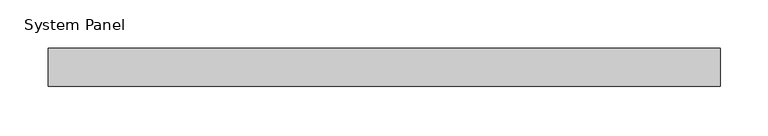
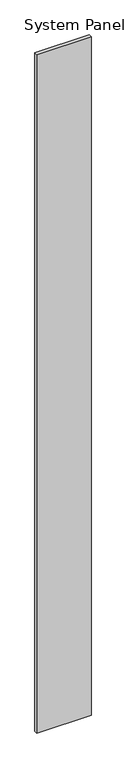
"""IFC4 building model written with IfcOpenShell, lengths in millimetres: plate geometry, System Panel : MetecnoSpan_40mm_Vertical_Plain_Surfmist."""

from ifc_helpers import new_model, si_unit, origin, origin_with_axes, place, context, project, spatial, polyline, outline, extrude, source, transform, mapped, element, save


def system_panel_a265e2d0(model_context):
    return source(origin(), model_context, "Body", "SweptSolid", [
        extrude(outline(polyline([(350.0, -40.0), (-350.0, -40.0), (-350.0, 0.0), (350.0, 0.0), (350.0, -40.0)])), origin_with_axes(), (0.0, 0.0, 1.0), 9240.3821682),
    ])


if __name__ == "__main__":
    model = new_model("IFC4")
    model_context = context("Model", 3, world=origin())
    ifc_project = project(units=[si_unit("LENGTHUNIT", "METRE", prefix="MILLI")], contexts=[model_context])
    site = spatial("IfcSite", under=ifc_project)
    building = spatial("IfcBuilding", under=site)
    placement = place(None, origin())
    system_panel_shape = system_panel_a265e2d0(model_context)
    element("IfcPlate", 1, ObjectType="System Panel : MetecnoSpan_40mm_Vertical_Plain_Surfmist", at=placement, inside=building, context=model_context, shape_type="MappedRepresentation", body=[
        mapped(system_panel_shape, transform((0.0, 0.0, 0.0), x_axis=(1.0, 0.0, 0.0), y_axis=(0.0, 1.0, 0.0), z_axis=(0.0, 0.0, 1.0))),
    ])
    save(model, "model.ifc")
